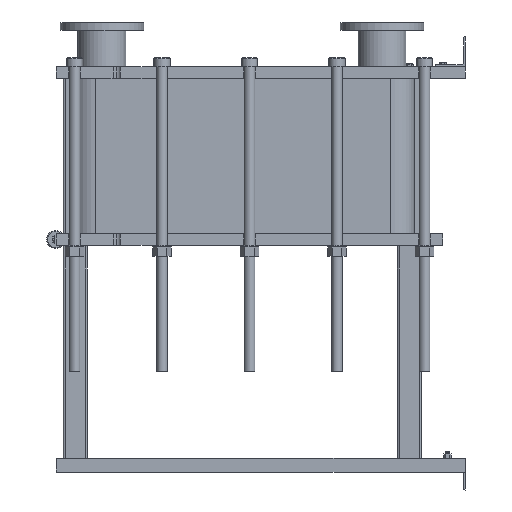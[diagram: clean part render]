
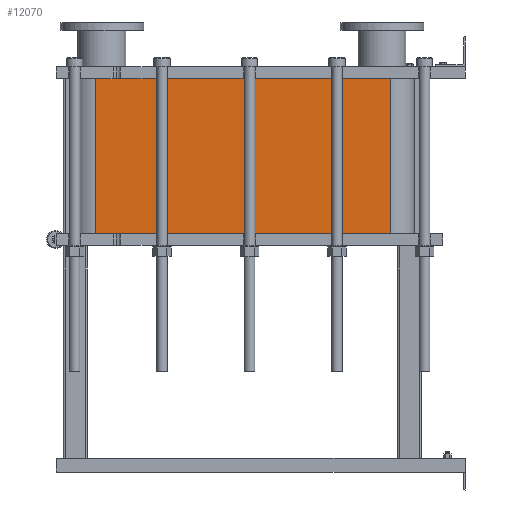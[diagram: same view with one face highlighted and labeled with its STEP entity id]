
A CAD part, left-side view. The second image highlights one B-rep face of the part: STEP entity #12070.
In plain terms, the highlighted planar face has unit normal (-1, 0, 0).
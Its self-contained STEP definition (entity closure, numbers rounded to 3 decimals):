
#1064=LINE('',#21140,#2164);
#1065=LINE('',#21144,#2165);
#1066=LINE('',#21146,#2166);
#1067=LINE('',#21147,#2167);
#2164=VECTOR('',#15790,10.);
#2165=VECTOR('',#15795,10.);
#2166=VECTOR('',#15796,10.);
#2167=VECTOR('',#15797,10.);
#3304=FACE_OUTER_BOUND('',#4091,.T.);
#4091=EDGE_LOOP('',(#9793,#9794,#9795,#9796));
#5677=VERTEX_POINT('',#21137);
#5678=VERTEX_POINT('',#21139);
#5679=VERTEX_POINT('',#21143);
#5680=VERTEX_POINT('',#21145);
#7118=EDGE_CURVE('',#5678,#5677,#1064,.T.);
#7120=EDGE_CURVE('',#5677,#5679,#1065,.T.);
#7121=EDGE_CURVE('',#5680,#5679,#1066,.T.);
#7122=EDGE_CURVE('',#5680,#5678,#1067,.T.);
#9793=ORIENTED_EDGE('',*,*,#7120,.T.);
#9794=ORIENTED_EDGE('',*,*,#7121,.F.);
#9795=ORIENTED_EDGE('',*,*,#7122,.T.);
#9796=ORIENTED_EDGE('',*,*,#7118,.T.);
#11441=PLANE('',#13191);
#12070=ADVANCED_FACE('',(#3304),#11441,.T.);
#13191=AXIS2_PLACEMENT_3D('',#21142,#15793,#15794);
#15790=DIRECTION('',(0.,0.,-1.));
#15793=DIRECTION('center_axis',(-1.,0.,0.));
#15794=DIRECTION('ref_axis',(0.,1.,0.));
#15795=DIRECTION('',(0.,-1.,0.));
#15796=DIRECTION('',(0.,0.,-1.));
#15797=DIRECTION('',(0.,1.,0.));
#21137=CARTESIAN_POINT('',(-248.152,1243.818,-520.95));
#21139=CARTESIAN_POINT('',(-248.152,1243.818,0.));
#21140=CARTESIAN_POINT('',(-248.152,1243.818,0.));
#21142=CARTESIAN_POINT('Origin',(-248.152,251.818,0.));
#21143=CARTESIAN_POINT('',(-248.152,251.818,-520.95));
#21144=CARTESIAN_POINT('',(-248.152,499.818,-520.95));
#21145=CARTESIAN_POINT('',(-248.152,251.818,0.));
#21146=CARTESIAN_POINT('',(-248.152,251.818,0.));
#21147=CARTESIAN_POINT('',(-248.152,251.818,0.));
